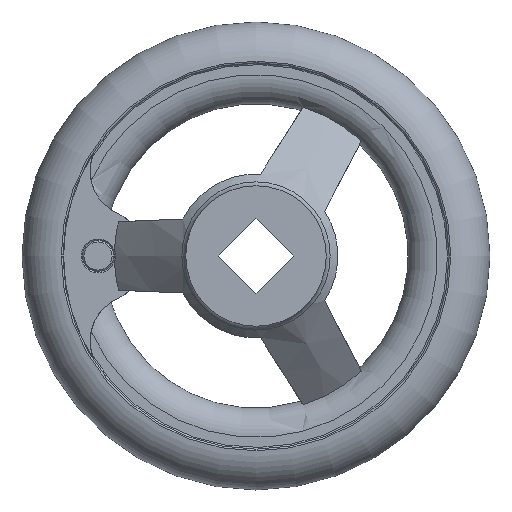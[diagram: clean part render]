
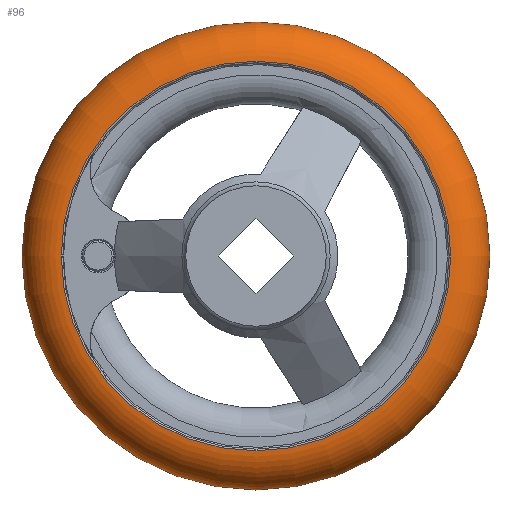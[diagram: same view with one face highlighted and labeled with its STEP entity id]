
A CAD part, left-side view. The second image highlights one B-rep face of the part: STEP entity #96.
In plain terms, the highlighted toroidal (fillet/blend) face has major radius 32.994 mm and minor radius 7.006 mm.
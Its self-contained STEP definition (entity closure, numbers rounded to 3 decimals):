
#96 = ADVANCED_FACE( '', ( #169, #170, #171 ), #172, .T. );
#169 = FACE_BOUND( '', #286, .T. );
#170 = FACE_OUTER_BOUND( '', #287, .T. );
#171 = FACE_OUTER_BOUND( '', #288, .T. );
#172 = TOROIDAL_SURFACE( '', #289, 32.994, 7.006 );
#286 = VERTEX_LOOP( '', #565 );
#287 = EDGE_LOOP( '', ( #566 ) );
#288 = EDGE_LOOP( '', ( #567 ) );
#289 = AXIS2_PLACEMENT_3D( '', #568, #569, #570 );
#565 = VERTEX_POINT( '', #821 );
#566 = ORIENTED_EDGE( '', *, *, #822, .T. );
#567 = ORIENTED_EDGE( '', *, *, #823, .F. );
#568 = CARTESIAN_POINT( '', ( 22., 0., 0. ) );
#569 = DIRECTION( '', ( 1., 0., 0. ) );
#570 = DIRECTION( '', ( 0., 1., 0. ) );
#821 = CARTESIAN_POINT( '', ( 22., 40., 0. ) );
#822 = EDGE_CURVE( '', #988, #988, #989, .T. );
#823 = EDGE_CURVE( '', #990, #990, #991, .T. );
#988 = VERTEX_POINT( '', #1450 );
#989 = CIRCLE( '', #1451, 33.292 );
#990 = VERTEX_POINT( '', #1452 );
#991 = CIRCLE( '', #1453, 33.292 );
#1450 = CARTESIAN_POINT( '', ( 15., 33.292, 0. ) );
#1451 = AXIS2_PLACEMENT_3D( '', #1655, #1656, #1657 );
#1452 = CARTESIAN_POINT( '', ( 29., 33.292, 0. ) );
#1453 = AXIS2_PLACEMENT_3D( '', #1658, #1659, #1660 );
#1655 = CARTESIAN_POINT( '', ( 15., 0., 0. ) );
#1656 = DIRECTION( '', ( 1., 0., 0. ) );
#1657 = DIRECTION( '', ( 0., 1., 0. ) );
#1658 = CARTESIAN_POINT( '', ( 29., 0., 0. ) );
#1659 = DIRECTION( '', ( 1., 0., 0. ) );
#1660 = DIRECTION( '', ( 0., 1., 0. ) );
